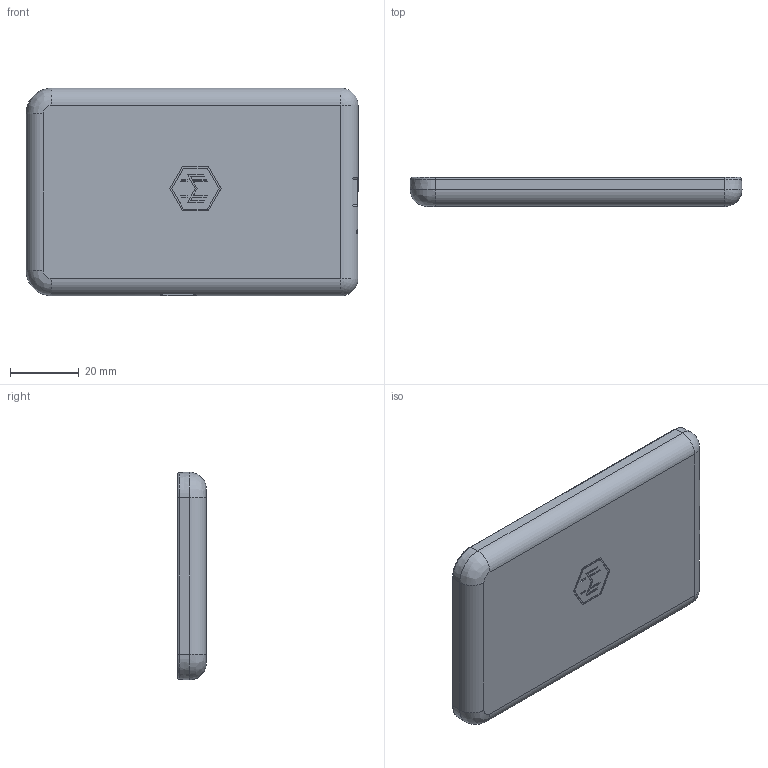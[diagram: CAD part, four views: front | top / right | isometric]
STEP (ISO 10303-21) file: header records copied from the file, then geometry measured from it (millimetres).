
FILE_DESCRIPTION(/* description */ (''),/* implementation_level */ '2;1');
FILE_NAME(/* name */ 'C:\Users\intelsath\Documents\Inventor\Cryptowallet\Casing for cover.stp',/* time_stamp */ '2018-09-03T11:56:00-07:00',/* author */ ('intelsath'),/* organization */ (''),/* preprocessor_version */ 'ST-DEVELOPER v16.5',/* originating_system */ 'Autodesk Inventor 2017',/* authorisation */ '');
FILE_SCHEMA (('AUTOMOTIVE_DESIGN { 1 0 10303 214 3 1 1 }'));
Length unit declared in the file: millimetre
Products named in the file (1): Casing for cover
Bounding box: 96.84 x 8.43 x 60.6 mm (x, y, z)
Volume: 9155.8 mm3; surface area: 17095.7 mm2
Topology: 1 solids, 1 shells, 953 faces, 2242 edges, 1253 vertices
Faces by surface type: cylinder 344, plane 234, bspline 210, sphere 117, torus 26, cone 22
Full cylindrical faces by diameter (mm): 1.1 x1
Entity records: 34566 total; most frequent: CARTESIAN_POINT 13303, DIRECTION 4673, ORIENTED_EDGE 4334, EDGE_CURVE 2167, AXIS2_PLACEMENT_3D 1866, VERTEX_POINT 1233, EDGE_LOOP 976, FACE_OUTER_BOUND 953
